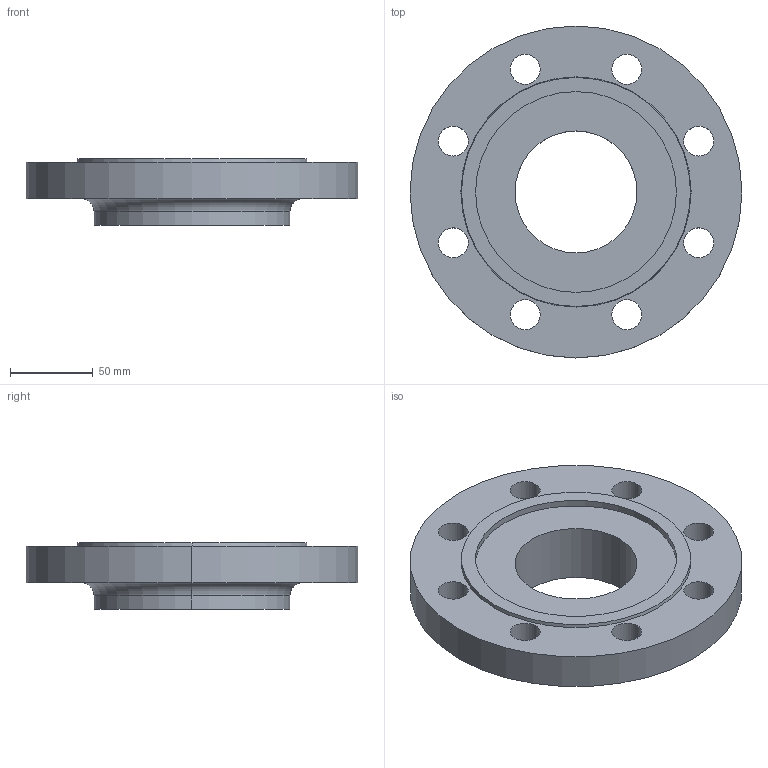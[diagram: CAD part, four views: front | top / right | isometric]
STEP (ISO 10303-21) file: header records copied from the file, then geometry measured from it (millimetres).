
FILE_DESCRIPTION (( 'STEP AP214' ), '1' );
FILE_NAME ('PN40 DN80 Type 13 - Type F Face.STEP', '2019-01-01T19:37:25', ( '' ), ( '' ), 'SwSTEP 2.0', 'SolidWorks 2019', '' );
FILE_SCHEMA (( 'AUTOMOTIVE_DESIGN' ));
Length unit declared in the file: millimetre
Products named in the file (1): PN40 DN80 Type 13 - Type F Face
Bounding box: 200 x 200 x 40 mm (x, y, z)
Volume: 657889.2 mm3; surface area: 89299 mm2
Topology: 1 solids, 1 shells, 33 faces, 82 edges, 54 vertices
Faces by surface type: cylinder 24, plane 5, torus 2, cone 2
Entity records: 1086 total; most frequent: DIRECTION 206, CARTESIAN_POINT 170, ORIENTED_EDGE 164, AXIS2_PLACEMENT_3D 90, EDGE_CURVE 82, CIRCLE 56, EDGE_LOOP 54, VERTEX_POINT 54
